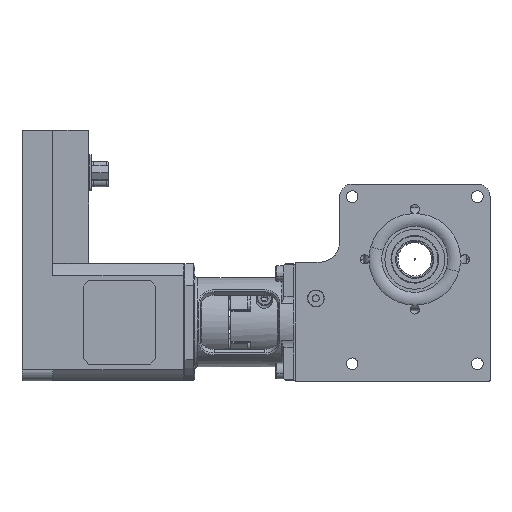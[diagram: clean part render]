
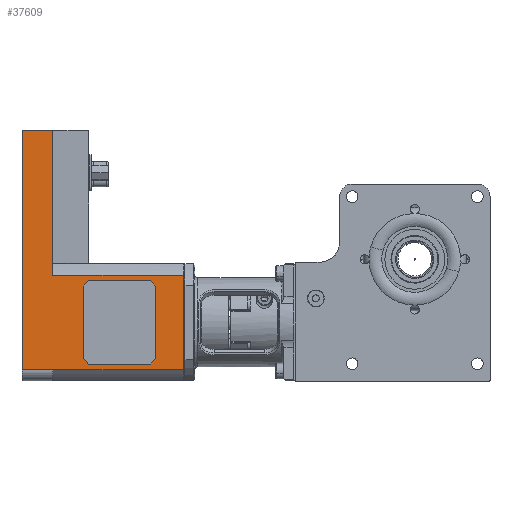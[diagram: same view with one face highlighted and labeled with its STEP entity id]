
A CAD part, front view. The second image highlights one B-rep face of the part: STEP entity #37609.
In plain terms, the highlighted planar face has unit normal (0, -1, 0).
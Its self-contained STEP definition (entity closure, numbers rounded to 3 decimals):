
#1288 = LINE ( 'NONE', #5246, #37808 ) ;
#2699 = VERTEX_POINT ( 'NONE', #7742 ) ;
#2915 = CARTESIAN_POINT ( 'NONE',  ( 15., -21., 12. ) ) ;
#3601 = EDGE_CURVE ( 'NONE', #57872, #47491, #1288, .T. ) ;
#4857 = CARTESIAN_POINT ( 'NONE',  ( 69., -21., 0. ) ) ;
#4864 = LINE ( 'NONE', #54436, #63161 ) ;
#5246 = CARTESIAN_POINT ( 'NONE',  ( -13., -21., 36. ) ) ;
#6579 = VECTOR ( 'NONE', #42333, 1000. ) ;
#7742 = CARTESIAN_POINT ( 'NONE',  ( -17., -21., 58. ) ) ;
#8688 = EDGE_CURVE ( 'NONE', #21401, #2699, #65853, .T. ) ;
#8713 = DIRECTION ( 'NONE',  ( 0.707, 0., -0.707 ) ) ;
#10035 = CARTESIAN_POINT ( 'NONE',  ( 69., -21., 47. ) ) ;
#10433 = ORIENTED_EDGE ( 'NONE', *, *, #15336, .T. ) ;
#10644 = DIRECTION ( 'NONE',  ( 1., 0., 0. ) ) ;
#10801 = ORIENTED_EDGE ( 'NONE', *, *, #47010, .T. ) ;
#12219 = DIRECTION ( 'NONE',  ( 1., 0., 0. ) ) ;
#12701 = FACE_OUTER_BOUND ( 'NONE', #79775, .T. ) ;
#14223 = CARTESIAN_POINT ( 'NONE',  ( -16.971, -21., 47. ) ) ;
#14299 = VECTOR ( 'NONE', #19470, 1000. ) ;
#15336 = EDGE_CURVE ( 'NONE', #18837, #26543, #72512, .T. ) ;
#15921 = VECTOR ( 'NONE', #12219, 1000. ) ;
#17564 = VECTOR ( 'NONE', #47502, 1000. ) ;
#18125 = CARTESIAN_POINT ( 'NONE',  ( 69., -21., 47. ) ) ;
#18837 = VERTEX_POINT ( 'NONE', #85265 ) ;
#19470 = DIRECTION ( 'NONE',  ( -1., 0., 0. ) ) ;
#20745 = VECTOR ( 'NONE', #54373, 1000. ) ;
#20761 = CARTESIAN_POINT ( 'NONE',  ( -14.997, -21., 11.997 ) ) ;
#21401 = VERTEX_POINT ( 'NONE', #71829 ) ;
#22223 = VECTOR ( 'NONE', #61136, 1000. ) ;
#22781 = CARTESIAN_POINT ( 'NONE',  ( 15., -21., 34. ) ) ;
#23375 = VERTEX_POINT ( 'NONE', #88421 ) ;
#23634 = EDGE_CURVE ( 'NONE', #70945, #2699, #44191, .T. ) ;
#23683 = VECTOR ( 'NONE', #36429, 1000. ) ;
#24248 = LINE ( 'NONE', #22781, #80166 ) ;
#26543 = VERTEX_POINT ( 'NONE', #85528 ) ;
#26807 = CARTESIAN_POINT ( 'NONE',  ( 69., -21., 10. ) ) ;
#27708 = DIRECTION ( 'NONE',  ( 0., 0., 1. ) ) ;
#27817 = ORIENTED_EDGE ( 'NONE', *, *, #75674, .T. ) ;
#27927 = PLANE ( 'NONE',  #50514 ) ;
#28238 = CARTESIAN_POINT ( 'NONE',  ( 69., -21., 58. ) ) ;
#28840 = CARTESIAN_POINT ( 'NONE',  ( -15.001, -20.999, 33.998 ) ) ;
#30446 = CARTESIAN_POINT ( 'NONE',  ( 68.8, -21., 47. ) ) ;
#31939 = DIRECTION ( 'NONE',  ( 0., 0., -1. ) ) ;
#31970 = VERTEX_POINT ( 'NONE', #88512 ) ;
#32093 = FACE_BOUND ( 'NONE', #77072, .T. ) ;
#32274 = CARTESIAN_POINT ( 'NONE',  ( -16.971, -21., 58. ) ) ;
#33736 = ORIENTED_EDGE ( 'NONE', *, *, #62745, .T. ) ;
#33940 = EDGE_CURVE ( 'NONE', #31970, #57872, #36984, .T. ) ;
#35317 = LINE ( 'NONE', #4857, #15921 ) ;
#35569 = DIRECTION ( 'NONE',  ( -1., 0., 0. ) ) ;
#36388 = ORIENTED_EDGE ( 'NONE', *, *, #49082, .T. ) ;
#36404 = VERTEX_POINT ( 'NONE', #30446 ) ;
#36429 = DIRECTION ( 'NONE',  ( 0., 0., 1. ) ) ;
#36984 = LINE ( 'NONE', #63116, #17564 ) ;
#37609 = ADVANCED_FACE ( 'NONE', ( #12701, #32093 ), #27927, .T. ) ;
#37808 = VECTOR ( 'NONE', #78300, 1000. ) ;
#37905 = VECTOR ( 'NONE', #27708, 1000. ) ;
#37942 = CARTESIAN_POINT ( 'NONE',  ( -13., -21., 36. ) ) ;
#39456 = EDGE_CURVE ( 'NONE', #57301, #40448, #35317, .T. ) ;
#40199 = LINE ( 'NONE', #32274, #20745 ) ;
#40448 = VERTEX_POINT ( 'NONE', #92809 ) ;
#41377 = EDGE_CURVE ( 'NONE', #45004, #18837, #43119, .T. ) ;
#42333 = DIRECTION ( 'NONE',  ( -0.707, 0., -0.707 ) ) ;
#43119 = LINE ( 'NONE', #77116, #6579 ) ;
#43597 = EDGE_CURVE ( 'NONE', #23375, #45004, #71400, .T. ) ;
#44191 = LINE ( 'NONE', #45386, #82932 ) ;
#45004 = VERTEX_POINT ( 'NONE', #88381 ) ;
#45365 = DIRECTION ( 'NONE',  ( 0., 0., 1. ) ) ;
#45386 = CARTESIAN_POINT ( 'NONE',  ( 24., -21., 58. ) ) ;
#45611 = ORIENTED_EDGE ( 'NONE', *, *, #62841, .T. ) ;
#45981 = LINE ( 'NONE', #18125, #82418 ) ;
#47010 = EDGE_CURVE ( 'NONE', #72137, #57301, #40199, .T. ) ;
#47491 = VERTEX_POINT ( 'NONE', #37942 ) ;
#47502 = DIRECTION ( 'NONE',  ( 0., 0., 1. ) ) ;
#49082 = EDGE_CURVE ( 'NONE', #21401, #72137, #78128, .T. ) ;
#49752 = VECTOR ( 'NONE', #31939, 1000. ) ;
#49998 = VECTOR ( 'NONE', #71833, 1000. ) ;
#50514 = AXIS2_PLACEMENT_3D ( 'NONE', #28238, #79242, #35569 ) ;
#51353 = EDGE_CURVE ( 'NONE', #74397, #36404, #45981, .T. ) ;
#52471 = ORIENTED_EDGE ( 'NONE', *, *, #33940, .T. ) ;
#54373 = DIRECTION ( 'NONE',  ( 0., 0., -1. ) ) ;
#54436 = CARTESIAN_POINT ( 'NONE',  ( 69., -21., 36. ) ) ;
#54611 = ORIENTED_EDGE ( 'NONE', *, *, #3601, .T. ) ;
#54853 = CARTESIAN_POINT ( 'NONE',  ( 13., -21., 36. ) ) ;
#57301 = VERTEX_POINT ( 'NONE', #70062 ) ;
#57872 = VERTEX_POINT ( 'NONE', #28840 ) ;
#61136 = DIRECTION ( 'NONE',  ( 1., 0., 0. ) ) ;
#61864 = ORIENTED_EDGE ( 'NONE', *, *, #75008, .T. ) ;
#61890 = DIRECTION ( 'NONE',  ( 1., 0., 0. ) ) ;
#62096 = CARTESIAN_POINT ( 'NONE',  ( 68.8, -21., 58. ) ) ;
#62745 = EDGE_CURVE ( 'NONE', #26543, #31970, #88652, .T. ) ;
#62841 = EDGE_CURVE ( 'NONE', #40448, #74397, #81864, .T. ) ;
#63116 = CARTESIAN_POINT ( 'NONE',  ( -15., -21., 34. ) ) ;
#63161 = VECTOR ( 'NONE', #10644, 1000. ) ;
#63586 = VECTOR ( 'NONE', #45365, 1000. ) ;
#63884 = ORIENTED_EDGE ( 'NONE', *, *, #69510, .T. ) ;
#64840 = CARTESIAN_POINT ( 'NONE',  ( 16.971, -21., 47. ) ) ;
#65853 = LINE ( 'NONE', #81653, #63586 ) ;
#66302 = ORIENTED_EDGE ( 'NONE', *, *, #23634, .T. ) ;
#69510 = EDGE_CURVE ( 'NONE', #73408, #23375, #24248, .T. ) ;
#70062 = CARTESIAN_POINT ( 'NONE',  ( -16.971, -21., 0. ) ) ;
#70945 = VERTEX_POINT ( 'NONE', #62096 ) ;
#71400 = LINE ( 'NONE', #2915, #49752 ) ;
#71415 = CARTESIAN_POINT ( 'NONE',  ( 68.8, -21., 58. ) ) ;
#71829 = CARTESIAN_POINT ( 'NONE',  ( -17., -21., 47. ) ) ;
#71833 = DIRECTION ( 'NONE',  ( -0.707, 0., 0.707 ) ) ;
#72137 = VERTEX_POINT ( 'NONE', #14223 ) ;
#72512 = LINE ( 'NONE', #26807, #14299 ) ;
#72766 = CARTESIAN_POINT ( 'NONE',  ( 16.971, -21., 58. ) ) ;
#73408 = VERTEX_POINT ( 'NONE', #54853 ) ;
#74077 = ORIENTED_EDGE ( 'NONE', *, *, #39456, .T. ) ;
#74397 = VERTEX_POINT ( 'NONE', #64840 ) ;
#75008 = EDGE_CURVE ( 'NONE', #36404, #70945, #78990, .T. ) ;
#75103 = ORIENTED_EDGE ( 'NONE', *, *, #43597, .T. ) ;
#75674 = EDGE_CURVE ( 'NONE', #47491, #73408, #4864, .T. ) ;
#77072 = EDGE_LOOP ( 'NONE', ( #94407, #10433, #33736, #52471, #54611, #27817, #63884, #75103 ) ) ;
#77116 = CARTESIAN_POINT ( 'NONE',  ( 13., -21., 10. ) ) ;
#78128 = LINE ( 'NONE', #10035, #22223 ) ;
#78300 = DIRECTION ( 'NONE',  ( 0.707, 0., 0.707 ) ) ;
#78990 = LINE ( 'NONE', #71415, #37905 ) ;
#79242 = DIRECTION ( 'NONE',  ( 0., -1., 0. ) ) ;
#79775 = EDGE_LOOP ( 'NONE', ( #10801, #74077, #45611, #88619, #61864, #66302, #91491, #36388 ) ) ;
#80166 = VECTOR ( 'NONE', #8713, 1000. ) ;
#81653 = CARTESIAN_POINT ( 'NONE',  ( -17., -21., 46.844 ) ) ;
#81676 = DIRECTION ( 'NONE',  ( -1., 0., 0. ) ) ;
#81864 = LINE ( 'NONE', #72766, #23683 ) ;
#82418 = VECTOR ( 'NONE', #61890, 1000. ) ;
#82932 = VECTOR ( 'NONE', #81676, 1000. ) ;
#85265 = CARTESIAN_POINT ( 'NONE',  ( 13., -21., 10. ) ) ;
#85528 = CARTESIAN_POINT ( 'NONE',  ( -13., -21., 10. ) ) ;
#88381 = CARTESIAN_POINT ( 'NONE',  ( 14.998, -20.999, 11.996 ) ) ;
#88421 = CARTESIAN_POINT ( 'NONE',  ( 15.001, -20.999, 33.998 ) ) ;
#88512 = CARTESIAN_POINT ( 'NONE',  ( -14.998, -20.999, 11.997 ) ) ;
#88619 = ORIENTED_EDGE ( 'NONE', *, *, #51353, .T. ) ;
#88652 = LINE ( 'NONE', #20761, #49998 ) ;
#91491 = ORIENTED_EDGE ( 'NONE', *, *, #8688, .F. ) ;
#92809 = CARTESIAN_POINT ( 'NONE',  ( 16.971, -21., 0. ) ) ;
#94407 = ORIENTED_EDGE ( 'NONE', *, *, #41377, .T. ) ;
